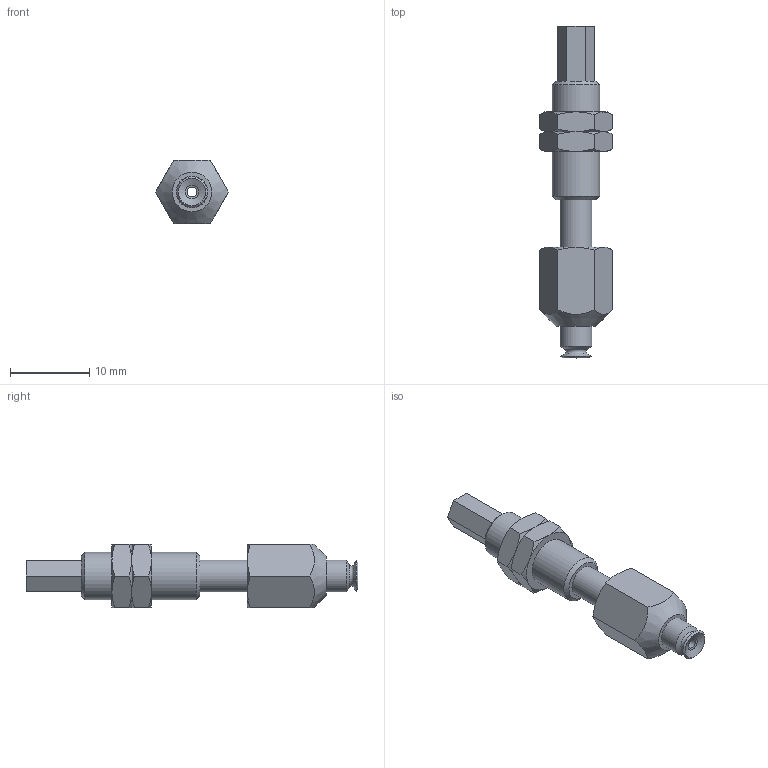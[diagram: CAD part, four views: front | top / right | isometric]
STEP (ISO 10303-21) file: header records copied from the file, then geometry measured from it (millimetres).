
FILE_DESCRIPTION(('STEP AP203'),'1');
FILE_NAME('.stp','2025-08-27T05:28:36',(' '),(' '),'Spatial InterOp 3D',' ',' ');
FILE_SCHEMA(('CONFIG_CONTROL_DESIGN'));
Length unit declared in the file: millimetre
Products named in the file (6): BNABPFTS-3.5A-6-※; ADAPTER; NAPFTS-2A-6-MBODY; Nut-3.5A-6-s; NAPFTS-3.5A-6-FBODY; BPFG-3.5A-※
Assembly tree (6 placements, depth 2):
  BNABPFTS-3.5A-6-※
    ADAPTER
    NAPFTS-2A-6-MBODY
    Nut-3.5A-6-s  x2
    NAPFTS-3.5A-6-FBODY
    BPFG-3.5A-※
Bounding box: 9.24 x 42 x 8 mm (x, y, z)
Volume: 1259.4 mm3; surface area: 1853.1 mm2
Topology: 6 solids, 6 shells, 110 faces, 231 edges, 137 vertices
Faces by surface type: plane 46, cone 42, cylinder 14, torus 7, bspline 1
Full cylindrical faces by diameter (mm): 1.2 x3, 2 x2, 2.459 x1, 3 x2, 4 x3, 5.188 x2, 6 x1
Entity records: 2599 total; most frequent: CARTESIAN_POINT 631, DIRECTION 354, ORIENTED_EDGE 288, AXIS2_PLACEMENT_3D 159, EDGE_CURVE 144, EDGE_LOOP 132, FACE_OUTER_BOUND 108, VERTEX_POINT 102
